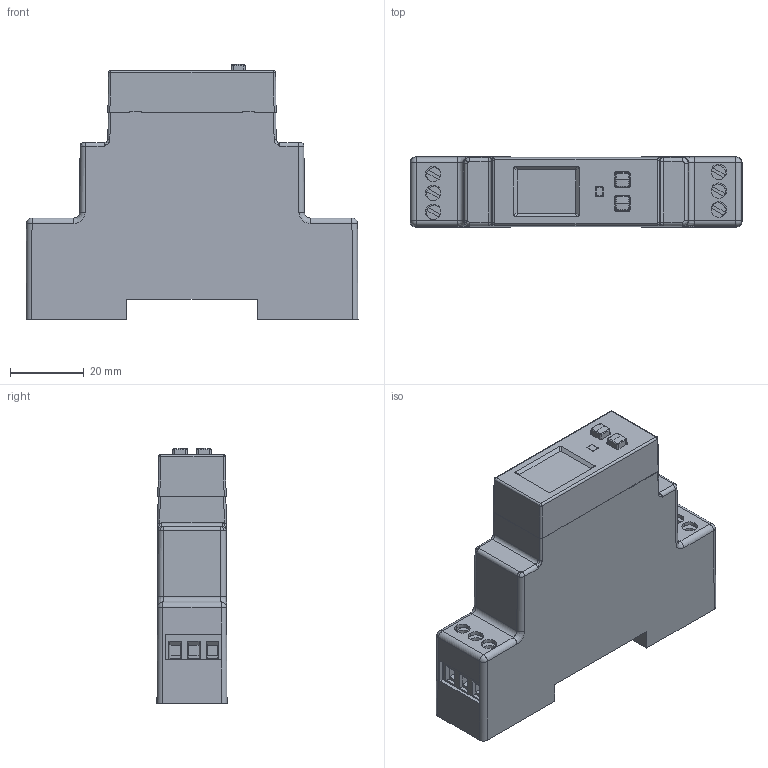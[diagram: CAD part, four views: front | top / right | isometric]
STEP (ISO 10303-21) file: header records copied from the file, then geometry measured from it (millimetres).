
FILE_DESCRIPTION (( 'STEP AP203' ), '1' );
FILE_NAME ('M4084 MCB-25.STEP', '2021-10-13T09:16:08', ( '' ), ( '' ), 'SwSTEP 2.0', 'SolidWorks 2021', '' );
FILE_SCHEMA (( 'CONFIG_CONTROL_DESIGN' ));
Length unit declared in the file: millimetre
Products named in the file (1): M4084 MCB-25
Bounding box: 90 x 18.99 x 69.17 mm (x, y, z)
Volume: 80444.6 mm3; surface area: 18005.9 mm2
Topology: 1 solids, 11 shells, 505 faces, 1307 edges, 834 vertices
Faces by surface type: plane 355, cylinder 95, bspline 35, torus 12, sphere 8
Entity records: 15908 total; most frequent: CARTESIAN_POINT 4028, ORIENTED_EDGE 2598, DIRECTION 2245, EDGE_CURVE 1299, VECTOR 963, LINE 963, VERTEX_POINT 834, AXIS2_PLACEMENT_3D 641
